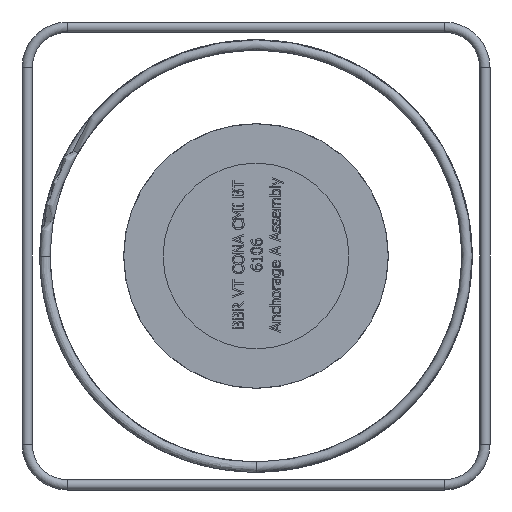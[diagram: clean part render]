
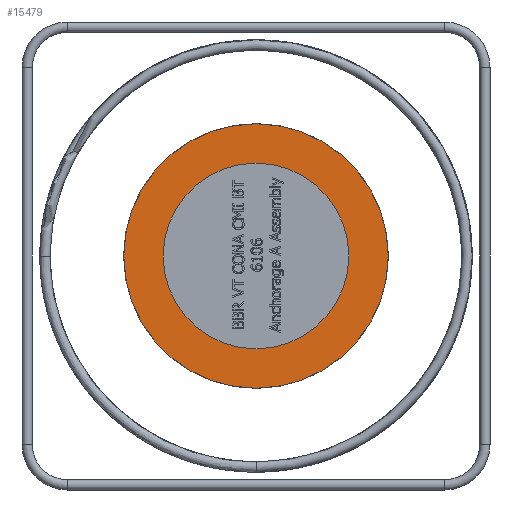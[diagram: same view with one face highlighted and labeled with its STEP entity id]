
A CAD part, left-side view. The second image highlights one B-rep face of the part: STEP entity #15479.
In plain terms, the highlighted planar face has unit normal (-1, 0, 0).
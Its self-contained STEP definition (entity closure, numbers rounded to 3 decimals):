
#104=FACE_BOUND('',#5377,.T.);
#744=PLANE('',#16387);
#4507=FACE_OUTER_BOUND('',#5376,.T.);
#5376=EDGE_LOOP('',(#13685));
#5377=EDGE_LOOP('',(#13686));
#5703=CIRCLE('',#16282,182.5);
#5736=CIRCLE('',#16343,260.);
#7137=VERTEX_POINT('',#34005);
#7187=VERTEX_POINT('',#34755);
#9254=EDGE_CURVE('',#7137,#7137,#5703,.T.);
#9337=EDGE_CURVE('',#7187,#7187,#5736,.T.);
#13685=ORIENTED_EDGE('',*,*,#9337,.T.);
#13686=ORIENTED_EDGE('',*,*,#9254,.T.);
#15479=ADVANCED_FACE('',(#4507,#104),#744,.T.);
#16282=AXIS2_PLACEMENT_3D('',#34007,#19047,#19048);
#16343=AXIS2_PLACEMENT_3D('',#34756,#19183,#19184);
#16387=AXIS2_PLACEMENT_3D('',#34850,#19277,#19278);
#19047=DIRECTION('center_axis',(1.,0.,0.));
#19048=DIRECTION('ref_axis',(0.,1.,0.));
#19183=DIRECTION('center_axis',(-1.,0.,0.));
#19184=DIRECTION('ref_axis',(0.,-1.,0.));
#19277=DIRECTION('center_axis',(-1.,0.,0.));
#19278=DIRECTION('ref_axis',(0.,0.,
1.));
#34005=CARTESIAN_POINT('',(-350.,-182.5,0.));
#34007=CARTESIAN_POINT('Origin',(-350.,0.,0.));
#34755=CARTESIAN_POINT('',(-350.,260.,0.));
#34756=CARTESIAN_POINT('Origin',(-350.,0.,0.));
#34850=CARTESIAN_POINT('Origin',(-350.,-205.25,0.));
